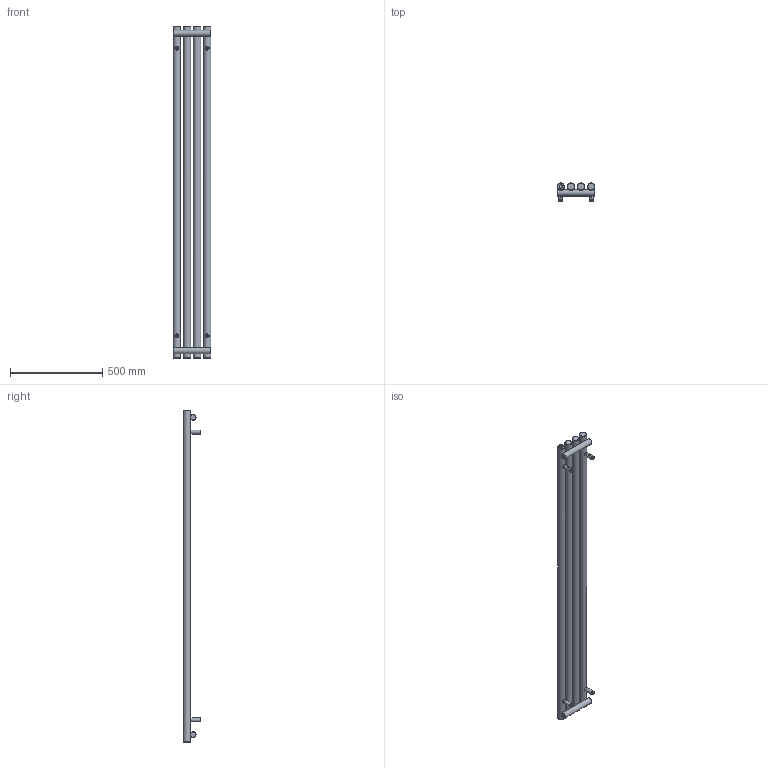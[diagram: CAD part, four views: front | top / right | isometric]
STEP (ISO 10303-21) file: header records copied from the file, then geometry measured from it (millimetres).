
FILE_DESCRIPTION(/* description */ (''),/* implementation_level */ '2;1');
FILE_NAME(/* name */ 'Z:\R\G\P\RGP116 - Grzejniki Geyser\Work\Inventor\Circolo (Rolo V, Rolo H)\ROLO-ROOM\Marketing\Zaokrąglone\WGROR180020-SX-CK-(Z).stp',/* time_stamp */ '2024-01-19T11:45:31+01:00',/* author */ ('NowAd'),/* organization */ (''),/* preprocessor_version */ 'ST-DEVELOPER v17.2',/* originating_system */ 'Autodesk Inventor 2019',/* authorisation */ '');
FILE_SCHEMA (('AUTOMOTIVE_DESIGN { 1 0 10303 214 3 1 1 }'));
Length unit declared in the file: millimetre
Products named in the file (3): WGROR180020-SX-CK-(Z); PGROR180020-SX-CK-(K); CK-V-fi40 marketing
Assembly tree (5 placements, depth 2):
  WGROR180020-SX-CK-(Z)
    PGROR180020-SX-CK-(K)
    CK-V-fi40 marketing  x4
Bounding box: 205 x 96.5 x 1800 mm (x, y, z)
Volume: 9416767.8 mm3; surface area: 987066.6 mm2
Topology: 5 solids, 5 shells, 312 faces, 789 edges, 528 vertices
Faces by surface type: plane 131, cylinder 73, cone 60, torus 40, bspline 8
Full cylindrical faces by diameter (mm): 4.134 x4, 4.48 x4, 6.4 x4, 10 x4, 12 x4, 15.834 x4, 16 x4, 18.631 x3, 22 x4, 32 x2, 40 x4
Entity records: 6058 total; most frequent: CARTESIAN_POINT 2921, DIRECTION 658, ORIENTED_EDGE 616, EDGE_CURVE 308, AXIS2_PLACEMENT_3D 292, VERTEX_POINT 210, EDGE_LOOP 164, CIRCLE 155
